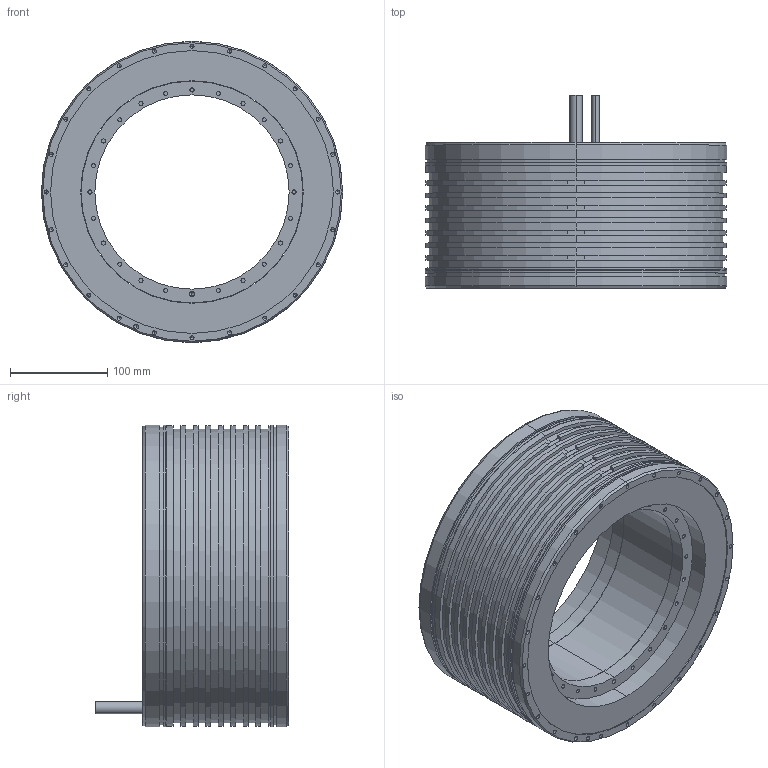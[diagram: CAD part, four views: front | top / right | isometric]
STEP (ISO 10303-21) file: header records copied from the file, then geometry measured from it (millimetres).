
FILE_DESCRIPTION (( 'STEP AP203' ), '1' );
FILE_NAME ('TM-2-7A.STEP', '2020-10-20T05:49:58', ( '' ), ( '' ), 'SwSTEP 2.0', 'SolidWorks 2015', '' );
FILE_SCHEMA (( 'CONFIG_CONTROL_DESIGN' ));
Length unit declared in the file: millimetre
Products named in the file (3): TM-2-7X_stator_TM-2-7A_stator; TM-2-7A; TM-2-7X_rotor_TM-2-7A_stator
Assembly tree (2 placements, depth 2):
  TM-2-7A
    TM-2-7X_stator_TM-2-7A_stator
    TM-2-7X_rotor_TM-2-7A_stator
Bounding box: 310 x 199 x 310 mm (x, y, z)
Volume: 5758450.4 mm3; surface area: 558790.7 mm2
Topology: 2 solids, 2 shells, 466 faces, 1068 edges, 612 vertices
Faces by surface type: cylinder 257, cone 112, plane 97
Entity records: 12763 total; most frequent: DIRECTION 2424, CARTESIAN_POINT 2047, ORIENTED_EDGE 1928, AXIS2_PLACEMENT_3D 989, EDGE_CURVE 964, VERTEX_POINT 612, EDGE_LOOP 580, CIRCLE 518
